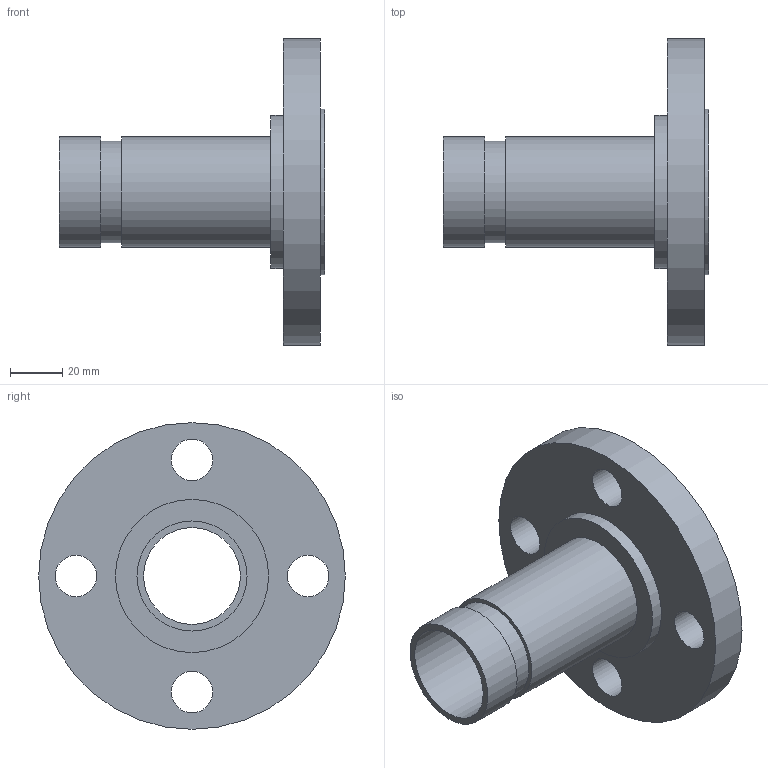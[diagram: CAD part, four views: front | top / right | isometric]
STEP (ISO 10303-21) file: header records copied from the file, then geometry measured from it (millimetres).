
FILE_DESCRIPTION(/* description */ ('VIC No 445R FLANGE ADAPTER NIPPE (ANSI)','CAx-IF Rec.Pracs.---Representation and Presentation of Product Manufacturing Information (PMI)---4.0---2014-10-13'),/* implementation_level */ '2;1');
FILE_NAME(/* name */ 'C:\Users\kkamble\AppData\Roaming\Autodesk\ApplicationPlugins\Back Up\Victaulic_SS-OGS_Flanged Adapter Nipple_CL 150 RF_Style 445R (OGSxFLG)\Victaulic_SS-OGS_Flanged Adapter Nipple_CL 150 RF_Style 445R (OGSxFLG)_1.25 (32).stp',/* time_stamp */ '2020-08-27T09:30:50+05:00',/* author */ ('jbrannon'),/* organization */ ('Victaulic'),/* preprocessor_version */ 'ST-DEVELOPER v17.2',/* originating_system */ 'Autodesk Inventor 2019',/* authorisation */ '');
FILE_SCHEMA (('FEATURE_BASED_PROCESS_PLANNING','AP242_MANAGED_MODEL_BASED_3D_ENGINEERING_MIM_LF { 1 0 10303 442 1 1 4 }'));
Length unit declared in the file: inch
Products named in the file (1): 445R-01.25
Bounding box: 101.6 x 117.47 x 117.47 mm (x, y, z)
Volume: 162685.4 mm3; surface area: 50113.8 mm2
Topology: 1 solids, 1 shells, 18 faces, 47 edges, 36 vertices
Faces by surface type: cylinder 11, plane 7
Full cylindrical faces by diameter (mm): 15.875 x4, 37.084 x1, 38.989 x1, 42.164 x2, 58.674 x1, 63.5 x1, 117.475 x1
Entity records: 769 total; most frequent: DIRECTION 147, CARTESIAN_POINT 119, ORIENTED_EDGE 94, AXIS2_PLACEMENT_3D 68, EDGE_CURVE 47, CIRCLE 36, VERTEX_POINT 36, EDGE_LOOP 33
